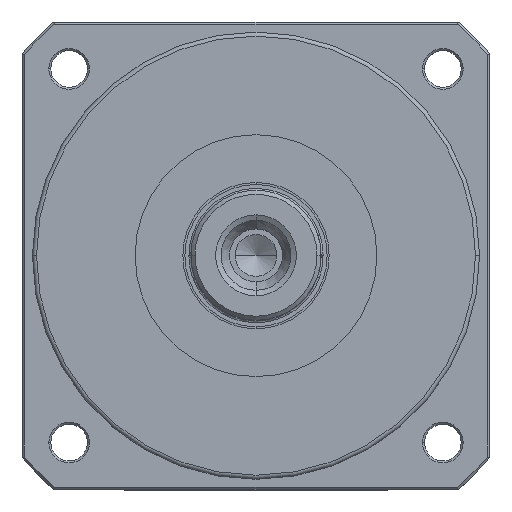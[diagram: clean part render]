
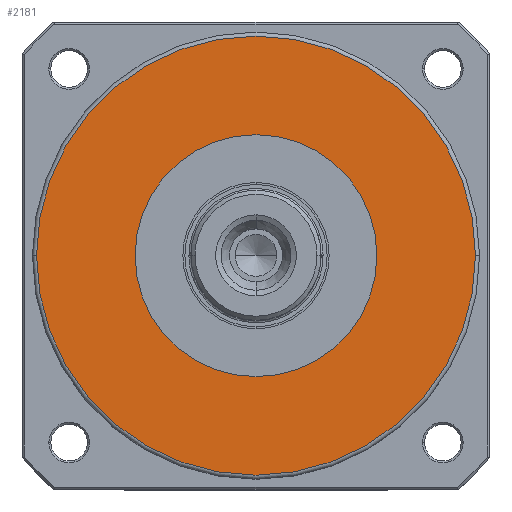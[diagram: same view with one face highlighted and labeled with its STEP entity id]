
A CAD part, top view. The second image highlights one B-rep face of the part: STEP entity #2181.
In plain terms, the highlighted planar face has unit normal (0, 0, 1).
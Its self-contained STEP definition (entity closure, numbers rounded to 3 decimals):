
#303=PLANE('',#8247);
#2181=ADVANCED_FACE('',(#2705,#2706),#303,.T.);
#2705=FACE_BOUND('',#3024,.T.);
#2706=FACE_BOUND('',#3025,.T.);
#3024=EDGE_LOOP('',(#4152,#4153));
#3025=EDGE_LOOP('',(#4154,#4155));
#4152=ORIENTED_EDGE('',*,*,#6400,.F.);
#4153=ORIENTED_EDGE('',*,*,#6750,.F.);
#4154=ORIENTED_EDGE('',*,*,#6751,.T.);
#4155=ORIENTED_EDGE('',*,*,#6523,.T.);
#5682=VERTEX_POINT('',#11285);
#5683=VERTEX_POINT('',#11286);
#5782=VERTEX_POINT('',#11658);
#5783=VERTEX_POINT('',#11659);
#6400=EDGE_CURVE('',#5682,#5683,#7505,.T.);
#6523=EDGE_CURVE('',#5782,#5783,#7558,.T.);
#6750=EDGE_CURVE('',#5683,#5682,#7645,.T.);
#6751=EDGE_CURVE('',#5783,#5782,#7646,.T.);
#7505=CIRCLE('',#7965,54.);
#7558=CIRCLE('',#8052,18.);
#7645=CIRCLE('',#8244,54.);
#7646=CIRCLE('',#8246,18.);
#7965=AXIS2_PLACEMENT_3D('',#11284,#8928,#8929);
#8052=AXIS2_PLACEMENT_3D('',#11657,#9168,#9169);
#8244=AXIS2_PLACEMENT_3D('',#12229,#9652,#9653);
#8246=AXIS2_PLACEMENT_3D('',#12231,#9656,#9657);
#8247=AXIS2_PLACEMENT_3D('',#12232,#9658,#9659);
#8928=DIRECTION('',(0.,0.,-1.));
#8929=DIRECTION('',(-1.,0.,0.));
#9168=DIRECTION('',(0.,0.,-1.));
#9169=DIRECTION('',(1.,0.,0.));
#9652=DIRECTION('',(0.,0.,-1.));
#9653=DIRECTION('',(-1.,0.,0.));
#9656=DIRECTION('',(0.,0.,-1.));
#9657=DIRECTION('',(1.,0.,0.));
#9658=DIRECTION('',(0.,0.,1.));
#9659=DIRECTION('',(-1.,0.,0.));
#11284=CARTESIAN_POINT('',(0.,0.,172.));
#11285=CARTESIAN_POINT('',(-54.,0.,172.));
#11286=CARTESIAN_POINT('',(54.,0.,172.));
#11657=CARTESIAN_POINT('',(0.,0.,172.));
#11658=CARTESIAN_POINT('',(-18.,0.,172.));
#11659=CARTESIAN_POINT('',(18.,0.,172.));
#12229=CARTESIAN_POINT('',(0.,0.,172.));
#12231=CARTESIAN_POINT('',(0.,0.,172.));
#12232=CARTESIAN_POINT('',(0.,0.,172.));
